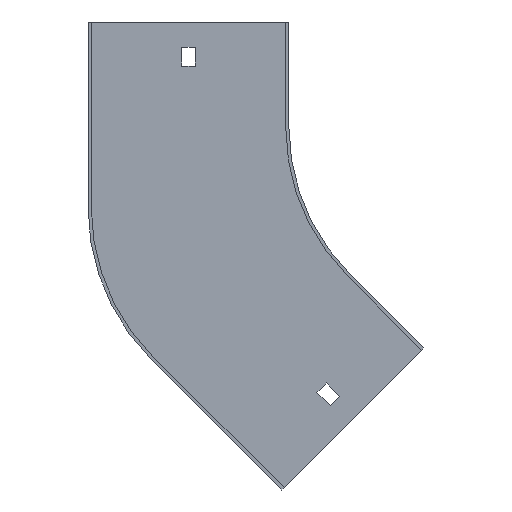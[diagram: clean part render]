
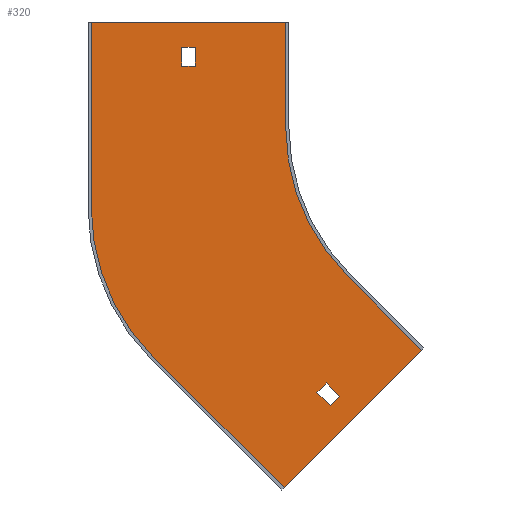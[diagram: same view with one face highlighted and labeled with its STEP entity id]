
A CAD part, front view. The second image highlights one B-rep face of the part: STEP entity #320.
In plain terms, the highlighted planar face has unit normal (0, -1, 0).
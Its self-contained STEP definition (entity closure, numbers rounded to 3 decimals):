
#7 = ORIENTED_EDGE ( 'NONE', *, *, #21, .F. ) ;
#8 = VERTEX_POINT ( 'NONE', #622 ) ;
#9 = LINE ( 'NONE', #682, #508 ) ;
#11 = VECTOR ( 'NONE', #178, 1000. ) ;
#21 = EDGE_CURVE ( 'NONE', #542, #458, #111, .T. ) ;
#23 = CARTESIAN_POINT ( 'NONE',  ( 0., -1.5, 0. ) ) ;
#26 = EDGE_CURVE ( 'NONE', #228, #209, #575, .T. ) ;
#27 = VERTEX_POINT ( 'NONE', #650 ) ;
#28 = CARTESIAN_POINT ( 'NONE',  ( -101.116, -1.5, -101.116 ) ) ;
#38 = VERTEX_POINT ( 'NONE', #660 ) ;
#45 = CARTESIAN_POINT ( 'NONE',  ( -149.5, -1.5, 38. ) ) ;
#58 = EDGE_LOOP ( 'NONE', ( #155, #157, #469, #791, #497, #177, #667, #7 ) ) ;
#61 = DIRECTION ( 'NONE',  ( 0., 0., -1. ) ) ;
#67 = CIRCLE ( 'NONE', #552, 100. ) ;
#73 = CARTESIAN_POINT ( 'NONE',  ( -34.295, -1.5, -105.005 ) ) ;
#77 = VERTEX_POINT ( 'NONE', #514 ) ;
#82 = FACE_BOUND ( 'NONE', #232, .T. ) ;
#89 = VECTOR ( 'NONE', #674, 1000. ) ;
#93 = LINE ( 'NONE', #361, #105 ) ;
#96 = CARTESIAN_POINT ( 'NONE',  ( 0., -1.5, 0. ) ) ;
#105 = VECTOR ( 'NONE', #630, 1000. ) ;
#111 = LINE ( 'NONE', #374, #646 ) ;
#112 = CARTESIAN_POINT ( 'NONE',  ( -100., -1.5, 0. ) ) ;
#139 = ORIENTED_EDGE ( 'NONE', *, *, #798, .T. ) ;
#151 = LINE ( 'NONE', #411, #89 ) ;
#154 = ORIENTED_EDGE ( 'NONE', *, *, #301, .T. ) ;
#155 = ORIENTED_EDGE ( 'NONE', *, *, #605, .F. ) ;
#157 = ORIENTED_EDGE ( 'NONE', *, *, #699, .F. ) ;
#171 = VERTEX_POINT ( 'NONE', #448 ) ;
#175 = VECTOR ( 'NONE', #670, 1000. ) ;
#177 = ORIENTED_EDGE ( 'NONE', *, *, #26, .F. ) ;
#178 = DIRECTION ( 'NONE',  ( 0.707, 0., -0.707 ) ) ;
#194 = VERTEX_POINT ( 'NONE', #528 ) ;
#209 = VERTEX_POINT ( 'NONE', #788 ) ;
#221 = VECTOR ( 'NONE', #386, 1000. ) ;
#226 = VECTOR ( 'NONE', #247, 1000. ) ;
#228 = VERTEX_POINT ( 'NONE', #719 ) ;
#229 = LINE ( 'NONE', #28, #175 ) ;
#232 = EDGE_LOOP ( 'NONE', ( #280, #742, #433, #804 ) ) ;
#233 = CARTESIAN_POINT ( 'NONE',  ( -92.5, -1.5, -38.315 ) ) ;
#239 = LINE ( 'NONE', #248, #11 ) ;
#247 = DIRECTION ( 'NONE',  ( 1., 0., 0. ) ) ;
#248 = CARTESIAN_POINT ( 'NONE',  ( -105.712, -1.5, -105.712 ) ) ;
#254 = DIRECTION ( 'NONE',  ( 1., 0., 0. ) ) ;
#268 = LINE ( 'NONE', #522, #857 ) ;
#273 = DIRECTION ( 'NONE',  ( -0.707, 0., 0.707 ) ) ;
#280 = ORIENTED_EDGE ( 'NONE', *, *, #707, .F. ) ;
#283 = VERTEX_POINT ( 'NONE', #613 ) ;
#301 = EDGE_CURVE ( 'NONE', #171, #376, #538, .T. ) ;
#303 = DIRECTION ( 'NONE',  ( 0.707, 0., 0.707 ) ) ;
#306 = VERTEX_POINT ( 'NONE', #757 ) ;
#310 = AXIS2_PLACEMENT_3D ( 'NONE', #96, #494, #604 ) ;
#313 = DIRECTION ( 'NONE',  ( 0., 1., 0. ) ) ;
#317 = LINE ( 'NONE', #763, #226 ) ;
#320 = ADVANCED_FACE ( 'NONE', ( #82, #367, #472 ), #828, .T. ) ;
#325 = LINE ( 'NONE', #328, #704 ) ;
#328 = CARTESIAN_POINT ( 'NONE',  ( -194., -1.5, 50. ) ) ;
#331 = CARTESIAN_POINT ( 'NONE',  ( -100., -1.5, 50. ) ) ;
#335 = AXIS2_PLACEMENT_3D ( 'NONE', #233, #313, #381 ) ;
#340 = CARTESIAN_POINT ( 'NONE',  ( -100.763, -1.5, -171.473 ) ) ;
#343 = EDGE_LOOP ( 'NONE', ( #139, #154, #547, #524 ) ) ;
#344 = DIRECTION ( 'NONE',  ( -1., 0., 0. ) ) ;
#356 = DIRECTION ( 'NONE',  ( 0., -1., 0. ) ) ;
#361 = CARTESIAN_POINT ( 'NONE',  ( -192.5, -1.5, -38.315 ) ) ;
#367 = FACE_OUTER_BOUND ( 'NONE', #58, .T. ) ;
#369 = CARTESIAN_POINT ( 'NONE',  ( -149.5, -1.5, 0. ) ) ;
#374 = CARTESIAN_POINT ( 'NONE',  ( -100., -1.5, 50. ) ) ;
#376 = VERTEX_POINT ( 'NONE', #744 ) ;
#381 = DIRECTION ( 'NONE',  ( 0., 0., -1. ) ) ;
#386 = DIRECTION ( 'NONE',  ( -0.707, 0., -0.707 ) ) ;
#388 = CIRCLE ( 'NONE', #335, 100. ) ;
#393 = LINE ( 'NONE', #653, #820 ) ;
#398 = VECTOR ( 'NONE', #812, 1000. ) ;
#411 = CARTESIAN_POINT ( 'NONE',  ( 20.506, -1.5, -20.506 ) ) ;
#433 = ORIENTED_EDGE ( 'NONE', *, *, #436, .F. ) ;
#436 = EDGE_CURVE ( 'NONE', #8, #38, #239, .T. ) ;
#448 = CARTESIAN_POINT ( 'NONE',  ( -143., -1.5, 38. ) ) ;
#458 = VERTEX_POINT ( 'NONE', #112 ) ;
#469 = ORIENTED_EDGE ( 'NONE', *, *, #838, .F. ) ;
#472 = FACE_BOUND ( 'NONE', #343, .T. ) ;
#494 = DIRECTION ( 'NONE',  ( 0., -1., 0. ) ) ;
#495 = VECTOR ( 'NONE', #726, 1000. ) ;
#497 = ORIENTED_EDGE ( 'NONE', *, *, #594, .F. ) ;
#498 = LINE ( 'NONE', #369, #782 ) ;
#500 = DIRECTION ( 'NONE',  ( 0., 0., 1. ) ) ;
#505 = EDGE_CURVE ( 'NONE', #560, #194, #268, .T. ) ;
#508 = VECTOR ( 'NONE', #303, 1000. ) ;
#514 = CARTESIAN_POINT ( 'NONE',  ( -192.5, -1.5, -38.315 ) ) ;
#522 = CARTESIAN_POINT ( 'NONE',  ( -100.763, -1.5, -171.473 ) ) ;
#523 = CARTESIAN_POINT ( 'NONE',  ( -70.711, -1.5, -70.711 ) ) ;
#524 = ORIENTED_EDGE ( 'NONE', *, *, #855, .T. ) ;
#528 = CARTESIAN_POINT ( 'NONE',  ( -163.211, -1.5, -109.025 ) ) ;
#538 = LINE ( 'NONE', #555, #398 ) ;
#539 = VERTEX_POINT ( 'NONE', #592 ) ;
#542 = VERTEX_POINT ( 'NONE', #331 ) ;
#547 = ORIENTED_EDGE ( 'NONE', *, *, #628, .T. ) ;
#552 = AXIS2_PLACEMENT_3D ( 'NONE', #23, #356, #753 ) ;
#555 = CARTESIAN_POINT ( 'NONE',  ( -143., -1.5, 0. ) ) ;
#560 = VERTEX_POINT ( 'NONE', #340 ) ;
#575 = LINE ( 'NONE', #523, #495 ) ;
#592 = CARTESIAN_POINT ( 'NONE',  ( -192.5, -1.5, 50. ) ) ;
#594 = EDGE_CURVE ( 'NONE', #209, #560, #663, .T. ) ;
#604 = DIRECTION ( 'NONE',  ( 0., 0., -1. ) ) ;
#605 = EDGE_CURVE ( 'NONE', #539, #542, #325, .T. ) ;
#613 = CARTESIAN_POINT ( 'NONE',  ( -74.246, -1.5, -127.986 ) ) ;
#622 = CARTESIAN_POINT ( 'NONE',  ( -85.206, -1.5, -126.219 ) ) ;
#628 = EDGE_CURVE ( 'NONE', #376, #306, #393, .T. ) ;
#630 = DIRECTION ( 'NONE',  ( 0., 0., 1. ) ) ;
#643 = EDGE_CURVE ( 'NONE', #458, #228, #67, .T. ) ;
#646 = VECTOR ( 'NONE', #61, 1000. ) ;
#650 = CARTESIAN_POINT ( 'NONE',  ( -80.61, -1.5, -121.622 ) ) ;
#653 = CARTESIAN_POINT ( 'NONE',  ( 0., -1.5, 29. ) ) ;
#660 = CARTESIAN_POINT ( 'NONE',  ( -78.842, -1.5, -132.583 ) ) ;
#663 = LINE ( 'NONE', #73, #221 ) ;
#667 = ORIENTED_EDGE ( 'NONE', *, *, #643, .F. ) ;
#670 = DIRECTION ( 'NONE',  ( -0.707, 0., 0.707 ) ) ;
#674 = DIRECTION ( 'NONE',  ( -0.707, 0., -0.707 ) ) ;
#682 = CARTESIAN_POINT ( 'NONE',  ( 26.87, -1.5, -26.87 ) ) ;
#699 = EDGE_CURVE ( 'NONE', #77, #539, #93, .T. ) ;
#704 = VECTOR ( 'NONE', #254, 1000. ) ;
#707 = EDGE_CURVE ( 'NONE', #283, #27, #229, .T. ) ;
#714 = EDGE_CURVE ( 'NONE', #38, #283, #9, .T. ) ;
#719 = CARTESIAN_POINT ( 'NONE',  ( -70.711, -1.5, -70.711 ) ) ;
#726 = DIRECTION ( 'NONE',  ( 0.707, 0., -0.707 ) ) ;
#742 = ORIENTED_EDGE ( 'NONE', *, *, #714, .F. ) ;
#744 = CARTESIAN_POINT ( 'NONE',  ( -143., -1.5, 29. ) ) ;
#750 = EDGE_CURVE ( 'NONE', #27, #8, #151, .T. ) ;
#753 = DIRECTION ( 'NONE',  ( 0., 0., -1. ) ) ;
#757 = CARTESIAN_POINT ( 'NONE',  ( -149.5, -1.5, 29. ) ) ;
#763 = CARTESIAN_POINT ( 'NONE',  ( 0., -1.5, 38. ) ) ;
#782 = VECTOR ( 'NONE', #500, 1000. ) ;
#786 = VERTEX_POINT ( 'NONE', #45 ) ;
#788 = CARTESIAN_POINT ( 'NONE',  ( -35.355, -1.5, -106.066 ) ) ;
#791 = ORIENTED_EDGE ( 'NONE', *, *, #505, .F. ) ;
#798 = EDGE_CURVE ( 'NONE', #786, #171, #317, .T. ) ;
#804 = ORIENTED_EDGE ( 'NONE', *, *, #750, .F. ) ;
#812 = DIRECTION ( 'NONE',  ( 0., 0., -1. ) ) ;
#820 = VECTOR ( 'NONE', #344, 1000. ) ;
#828 = PLANE ( 'NONE',  #310 ) ;
#838 = EDGE_CURVE ( 'NONE', #194, #77, #388, .T. ) ;
#855 = EDGE_CURVE ( 'NONE', #306, #786, #498, .T. ) ;
#857 = VECTOR ( 'NONE', #273, 1000. ) ;
